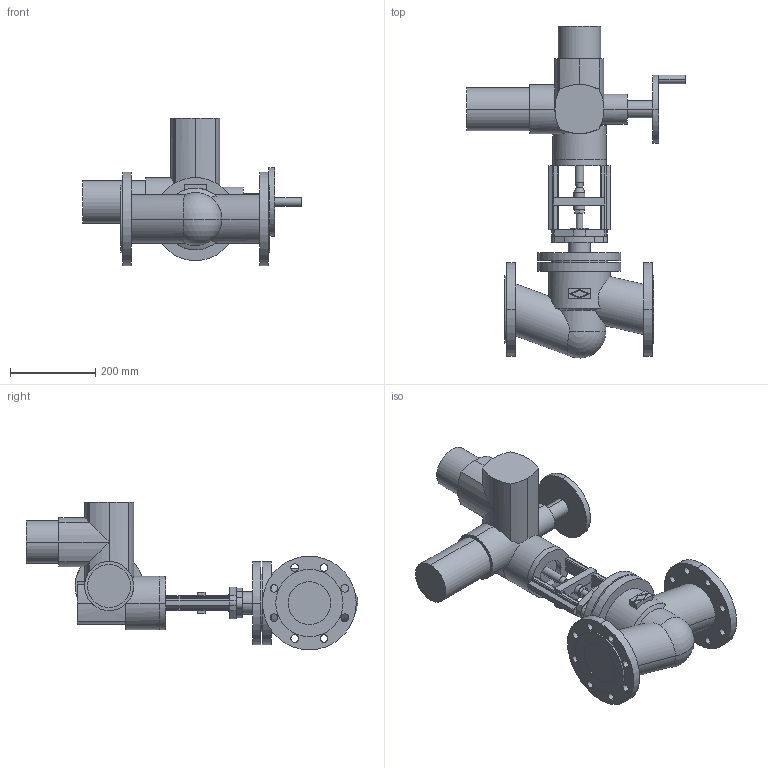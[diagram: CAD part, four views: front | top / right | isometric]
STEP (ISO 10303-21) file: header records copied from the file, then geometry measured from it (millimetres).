
FILE_DESCRIPTION(('OneSpaceDesigner STEP Export'),'2;1');
FILE_NAME('c000003081.stp','2007-01-09T10:40:10',(''),(''),'OneSpace Designer STEP processor for AP214 (Solid Model)','OneSpace Designer 14.00B 27-May-2006 (C) CoCreate Software GmbH','');
FILE_SCHEMA(('AUTOMOTIVE_DESIGN { 1 0 10303 214 1 1 1 1 }'));
Length unit declared in the file: millimetre
Products named in the file (3): 1; 2; 3
Bounding box: 514 x 778.97 x 347 mm (x, y, z)
Volume: 16193753.3 mm3; surface area: 899516.1 mm2
Topology: 3 solids, 3 shells, 269 faces, 689 edges, 440 vertices
Faces by surface type: cylinder 144, plane 117, cone 6, sphere 2
Entity records: 7992 total; most frequent: CARTESIAN_POINT 1862, ORIENTED_EDGE 1374, DIRECTION 1121, EDGE_CURVE 687, VERTEX_POINT 440, AXIS2_PLACEMENT_3D 380, VECTOR 361, LINE 361
